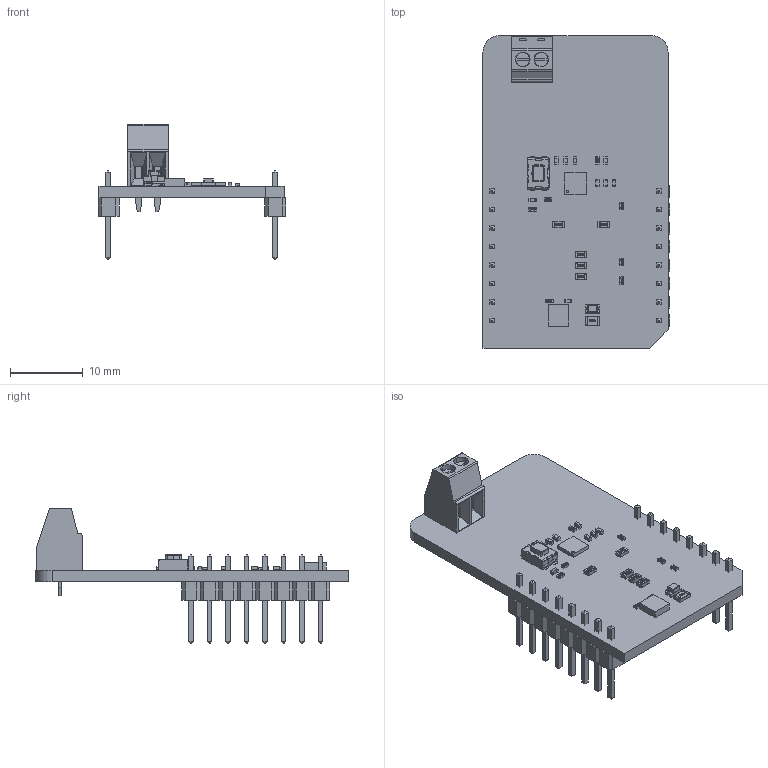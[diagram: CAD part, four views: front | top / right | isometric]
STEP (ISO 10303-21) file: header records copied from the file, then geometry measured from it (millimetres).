
FILE_DESCRIPTION(('Open CASCADE Model'),'2;1');
FILE_NAME('Open CASCADE Shape Model','2026-06-18T16:03:42',('Author'),( 'Open CASCADE'),'Open CASCADE STEP processor 7.5','Open CASCADE 7.5' ,'Unknown');
FILE_SCHEMA(('AUTOMOTIVE_DESIGN { 1 0 10303 214 1 1 1 1 }'));
Length unit declared in the file: millimetre
Products named in the file (54): PCB; Board; Open CASCADE STEP translator 7.5 2.1.1; R1; User Library-R_0805; LD1; led_0805_green; R2; User Library-R_0402; C1; User Library-SMD CAPACITOR0402; U1; 8837176000; Extruded; MBD1; Header 1x8; Free-Models; 1240637040; User_Library-PinHeaderX5-1_PinHeaderX5_Body_1; User_Library-PinHeaderX5-1_PinHeaderX5_Pins_1; JP1; User Library-R_0603; C2; C3; C4; C5; C6; C7; C8; C9; JP2; JP4; JP5; R3; R4; R5; R6; R7; R8; T1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
Assembly tree (73 placements, depth 7):
  PCB
    Board
      Open CASCADE STEP translator 7.5 2.1.1
    R1
      User Library-R_0805
    LD1
      led_0805_green
    R2
      User Library-R_0402
    C1
      User Library-SMD CAPACITOR0402
    U1
      8837176000
        Extruded
    MBD1
      Header 1x8  x2
        PCB
          Free-Models
            1240637040  x2
              User_Library-PinHeaderX5-1_PinHeaderX5_Body_1
              User_Library-PinHeaderX5-1_PinHeaderX5_Pins_1
    JP1
      User Library-R_0603
    C2
      User Library-SMD CAPACITOR0402
    C3
      User Library-SMD CAPACITOR0402
    C4
      User Library-SMD CAPACITOR0402
    C5
      User Library-SMD CAPACITOR0402
    C6
      User Library-SMD CAPACITOR0402
    C7
      User Library-SMD CAPACITOR0402
    C8
      User Library-SMD CAPACITOR0402
    C9
      User Library-SMD CAPACITOR0402
    JP2
      User Library-R_0603
    JP4
      User Library-R_0603
    JP5
      User Library-R_0603
    R3
      User Library-R_0402
    R4
      User Library-R_0402
    R5
      User Library-R_0402
    R6
      User Library-R_0402
    R7
      User Library-R_0402
    R8
      User Library-R_0402
    T1
      User Library-Switch-CK-KMR2
        User Library-Switch-CK-KMR2_Button
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Bounding box: 25.78 x 42.93 x 18.61 mm (x, y, z)
Volume: 2410.3 mm3; surface area: 4638.5 mm2
Topology: 88 solids, 88 shells, 2427 faces, 6087 edges, 3870 vertices
Faces by surface type: plane 1650, bspline 455, cylinder 240, sphere 76, cone 6
Full cylindrical faces by diameter (mm): 0.3 x1
Entity records: 37406 total; most frequent: CARTESIAN_POINT 11789, ORIENTED_EDGE 4270, DIRECTION 3735, EDGE_CURVE 2135, LINE 1647, VECTOR 1647, VERTEX_POINT 1390, AXIS2_PLACEMENT_3D 1044
